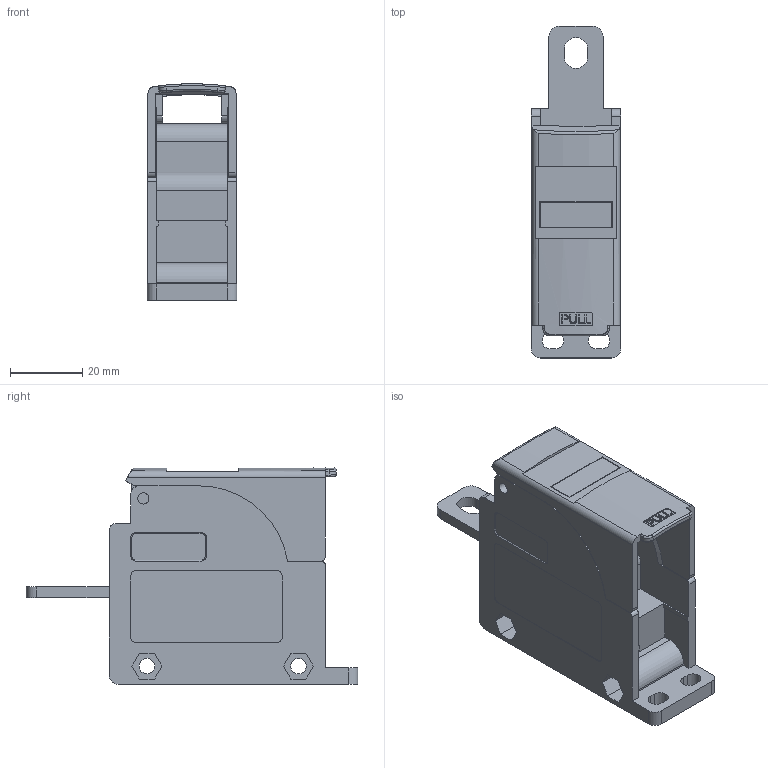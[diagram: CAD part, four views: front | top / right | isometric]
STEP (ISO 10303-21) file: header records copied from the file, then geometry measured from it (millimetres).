
FILE_DESCRIPTION(/* description */ (''),/* implementation_level */ '2;1');
FILE_NAME(/* name */ '',/* time_stamp */ '2016-09-21T13:42:56+09:00',/* author */ (''),/* organization */ (''),/* preprocessor_version */ 'ST-DEVELOPER v11',/* originating_system */ 'SIEMENS UGS NX 6.0',/* authorisation */ '');
FILE_SCHEMA (('CONFIG_CONTROL_DESIGN'));
Length unit declared in the file: millimetre
Products named in the file (1): ksleA0B3turq
Bounding box: 24.8 x 92 x 59.99 mm (x, y, z)
Volume: 57190.7 mm3; surface area: 20035 mm2
Topology: 1 solids, 1 shells, 233 faces, 657 edges, 436 vertices
Faces by surface type: plane 158, cylinder 56, cone 6, extrusion 6, bspline 5, torus 2
Full cylindrical faces by diameter (mm): 3.1 x2, 4.3 x2
Entity records: 8212 total; most frequent: CARTESIAN_POINT 1991, ORIENTED_EDGE 1314, DIRECTION 1209, EDGE_CURVE 657, VECTOR 483, LINE 477, VERTEX_POINT 445, AXIS2_PLACEMENT_3D 363
